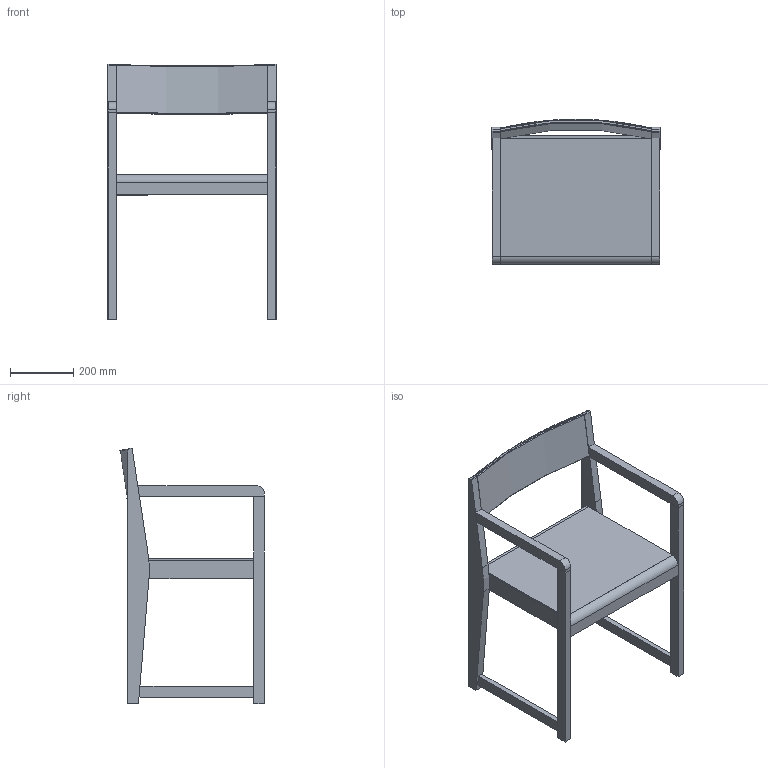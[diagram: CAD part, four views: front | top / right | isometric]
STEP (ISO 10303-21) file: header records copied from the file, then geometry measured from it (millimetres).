
FILE_DESCRIPTION(/* description */ (''),/* implementation_level */ '2;1');
FILE_NAME(/* name */ 'FRAMA_01-ArmrestChair-3D',/* time_stamp */ '2025-10-20T16:30:26+02:00',/* author */ (''),/* organization */ (''),/* preprocessor_version */ 'ST-DEVELOPER v16.5',/* originating_system */ 'Rhino 7.38',/* authorisation */ '');
FILE_SCHEMA (('CONFIG_CONTROL_DESIGN'));
Length unit declared in the file: millimetre
Products named in the file (1): Document
Bounding box: 532.4 x 459.35 x 809.02 mm (x, y, z)
Volume: 9003333.6 mm3; surface area: 1420882 mm2
Topology: 14 solids, 14 shells, 103 faces, 226 edges, 152 vertices
Faces by surface type: plane 88, bspline 10, cylinder 5
Entity records: 3176 total; most frequent: CARTESIAN_POINT 1528, ORIENTED_EDGE 450, EDGE_CURVE 225, VERTEX_POINT 150, B_SPLINE_CURVE_WITH_KNOTS 111, ADVANCED_FACE 103, FACE_OUTER_BOUND 103, EDGE_LOOP 103
